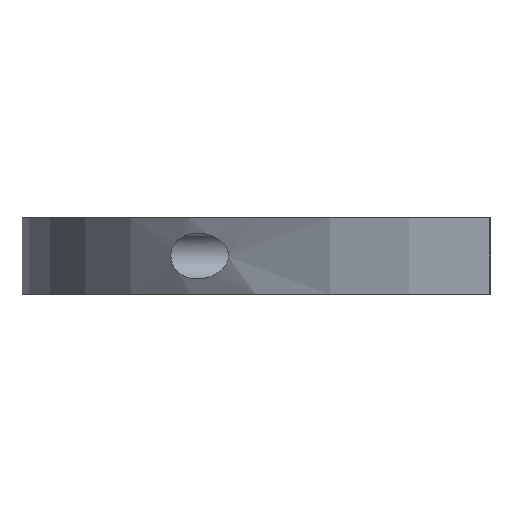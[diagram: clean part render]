
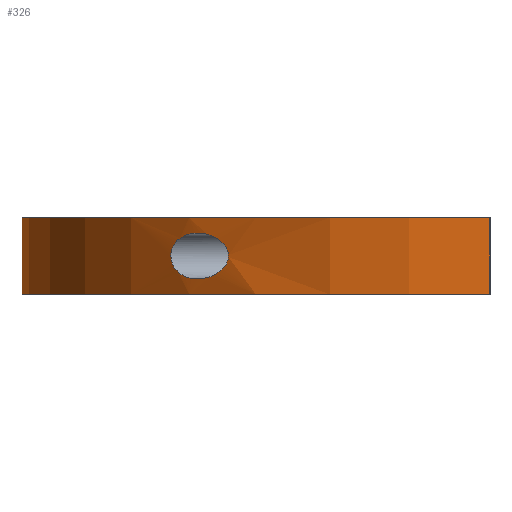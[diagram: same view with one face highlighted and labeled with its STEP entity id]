
A CAD part, left-side view. The second image highlights one B-rep face of the part: STEP entity #326.
In plain terms, the highlighted cylindrical face has radius 31.225 mm (diameter 62.45 mm), a partial arc.
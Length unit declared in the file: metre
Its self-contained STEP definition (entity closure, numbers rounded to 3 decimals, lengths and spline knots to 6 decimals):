
#12=B_SPLINE_CURVE_WITH_KNOTS('',3,(#535,#536,#537,#538,#539,#540,#541,
#542,#543,#544,#545,#546,#547,#548,#549,#550,#551),.UNSPECIFIED.,.T.,.F.,
(1,1,1,1,1,1,1,1,1,1,1,1,1,1,1,1,1,1,1,1,1),(-0.002855,-0.002141,
-0.001428,0.,0.000714,0.001428,0.002141,
0.002855,0.003569,0.004283,0.004996,
0.00571,0.007138,0.007851,0.008565,
0.009279,0.009993,0.01142,0.012134,
0.012848,0.013561),.UNSPECIFIED.);
#13=B_SPLINE_CURVE_WITH_KNOTS('',3,(#553,#554,#555,#556,#557,#558,#559,
#560,#561,#562,#563,#564,#565,#566,#567,#568,#569,#570,#571),
 .UNSPECIFIED.,.T.,.F.,(1,1,1,1,1,1,1,1,1,1,1,1,1,1,1,1,1,1,1,1,1,1,1),
(-0.00235,-0.001566,-0.000783,0.,0.000783,
0.001566,0.00235,0.003133,0.003916,
0.004699,0.005482,0.006265,0.007049,
0.007832,0.008615,0.009398,0.010181,
0.010965,0.011748,0.012531,0.013314,
0.014097,0.014881),.UNSPECIFIED.);
#16=CYLINDRICAL_SURFACE('',#367,0.031225);
#26=CIRCLE('',#354,0.031225);
#35=CIRCLE('',#366,0.031225);
#72=ORIENTED_EDGE('',*,*,#156,.T.);
#73=ORIENTED_EDGE('',*,*,#157,.T.);
#74=ORIENTED_EDGE('',*,*,#155,.T.);
#75=ORIENTED_EDGE('',*,*,#149,.F.);
#76=ORIENTED_EDGE('',*,*,#133,.F.);
#77=ORIENTED_EDGE('',*,*,#158,.T.);
#133=EDGE_CURVE('',#177,#178,#26,.T.);
#149=EDGE_CURVE('',#178,#188,#217,.T.);
#155=EDGE_CURVE('',#193,#188,#35,.T.);
#156=EDGE_CURVE('',#196,#196,#12,.T.);
#157=EDGE_CURVE('',#197,#197,#13,.T.);
#158=EDGE_CURVE('',#177,#193,#222,.T.);
#177=VERTEX_POINT('',#489);
#178=VERTEX_POINT('',#491);
#188=VERTEX_POINT('',#515);
#193=VERTEX_POINT('',#526);
#196=VERTEX_POINT('',#552);
#197=VERTEX_POINT('',#572);
#217=LINE('',#522,#241);
#222=LINE('',#573,#246);
#241=VECTOR('',#422,1.);
#246=VECTOR('',#435,1.);
#260=EDGE_LOOP('',(#72));
#261=EDGE_LOOP('',(#73));
#262=EDGE_LOOP('',(#74,#75,#76,#77));
#290=FACE_BOUND('',#260,.T.);
#291=FACE_BOUND('',#261,.T.);
#292=FACE_BOUND('',#262,.T.);
#326=ADVANCED_FACE('',(#290,#291,#292),#16,.T.);
#354=AXIS2_PLACEMENT_3D('',#490,#394,#395);
#366=AXIS2_PLACEMENT_3D('',#533,#431,#432);
#367=AXIS2_PLACEMENT_3D('',#534,#433,#434);
#394=DIRECTION('',(0.,0.,1.));
#395=DIRECTION('',(1.,0.,0.));
#422=DIRECTION('',(0.,0.,-1.));
#431=DIRECTION('',(0.,0.,1.));
#432=DIRECTION('',(1.,0.,0.));
#433=DIRECTION('',(0.,0.,-1.));
#434=DIRECTION('',(-1.,0.,0.));
#435=DIRECTION('',(0.,0.,-1.));
#489=CARTESIAN_POINT('',(0.254125,0.,0.005109));
#490=CARTESIAN_POINT('',(0.2229,-0.000112,0.005109));
#491=CARTESIAN_POINT('',(0.191676,0.,0.005109));
#515=CARTESIAN_POINT('',(0.191676,0.,0.));
#522=CARTESIAN_POINT('',(0.191676,0.,0.005109));
#526=CARTESIAN_POINT('',(0.254125,0.,0.));
#533=CARTESIAN_POINT('',(0.2229,-0.000112,0.));
#534=CARTESIAN_POINT('',(0.2229,-0.000112,0.005109));
#535=CARTESIAN_POINT('',(0.243658,0.023221,0.001203));
#536=CARTESIAN_POINT('',(0.244376,0.022564,0.000976));
#537=CARTESIAN_POINT('',(0.245054,0.021896,0.00109));
#538=CARTESIAN_POINT('',(0.245526,0.02141,0.00135));
#539=CARTESIAN_POINT('',(0.245919,0.020988,0.001801));
#540=CARTESIAN_POINT('',(0.246127,0.020758,0.002497));
#541=CARTESIAN_POINT('',(0.245967,0.020935,0.003225));
#542=CARTESIAN_POINT('',(0.245591,0.021341,0.003708));
#543=CARTESIAN_POINT('',(0.24513,0.02182,0.003995));
#544=CARTESIAN_POINT('',(0.244454,0.022491,0.004144));
#545=CARTESIAN_POINT('',(0.243735,0.023152,0.003953));
#546=CARTESIAN_POINT('',(0.243166,0.023645,0.003321));
#547=CARTESIAN_POINT('',(0.242959,0.023818,0.002618));
#548=CARTESIAN_POINT('',(0.243114,0.023688,0.001888));
#549=CARTESIAN_POINT('',(0.243658,0.023221,0.001203));
#550=CARTESIAN_POINT('',(0.244376,0.022564,0.000976));
#551=CARTESIAN_POINT('',(0.245054,0.021896,0.00109));
#552=CARTESIAN_POINT('',(0.244542,0.022396,0.001033));
#553=CARTESIAN_POINT('',(0.198072,0.018829,0.001083));
#554=CARTESIAN_POINT('',(0.198564,0.019457,0.001004));
#555=CARTESIAN_POINT('',(0.199062,0.020061,0.001082));
#556=CARTESIAN_POINT('',(0.199556,0.02063,0.001346));
#557=CARTESIAN_POINT('',(0.199987,0.021102,0.001851));
#558=CARTESIAN_POINT('',(0.200165,0.021291,0.00266));
#559=CARTESIAN_POINT('',(0.199896,0.021005,0.003413));
#560=CARTESIAN_POINT('',(0.199444,0.020502,0.003851));
#561=CARTESIAN_POINT('',(0.198943,0.019919,0.004068));
#562=CARTESIAN_POINT('',(0.198446,0.019309,0.004107));
#563=CARTESIAN_POINT('',(0.197964,0.018686,0.003993));
#564=CARTESIAN_POINT('',(0.197525,0.018089,0.003718));
#565=CARTESIAN_POINT('',(0.197145,0.017543,0.003257));
#566=CARTESIAN_POINT('',(0.196967,0.017279,0.002453));
#567=CARTESIAN_POINT('',(0.197228,0.017666,0.001727));
#568=CARTESIAN_POINT('',(0.197623,0.018225,0.00132));
#569=CARTESIAN_POINT('',(0.198072,0.018829,0.001083));
#570=CARTESIAN_POINT('',(0.198564,0.019457,0.001004));
#571=CARTESIAN_POINT('',(0.199062,0.020061,0.001082));
#572=CARTESIAN_POINT('',(0.198565,0.019453,0.00103));
#573=CARTESIAN_POINT('',(0.254125,0.,0.005109));
